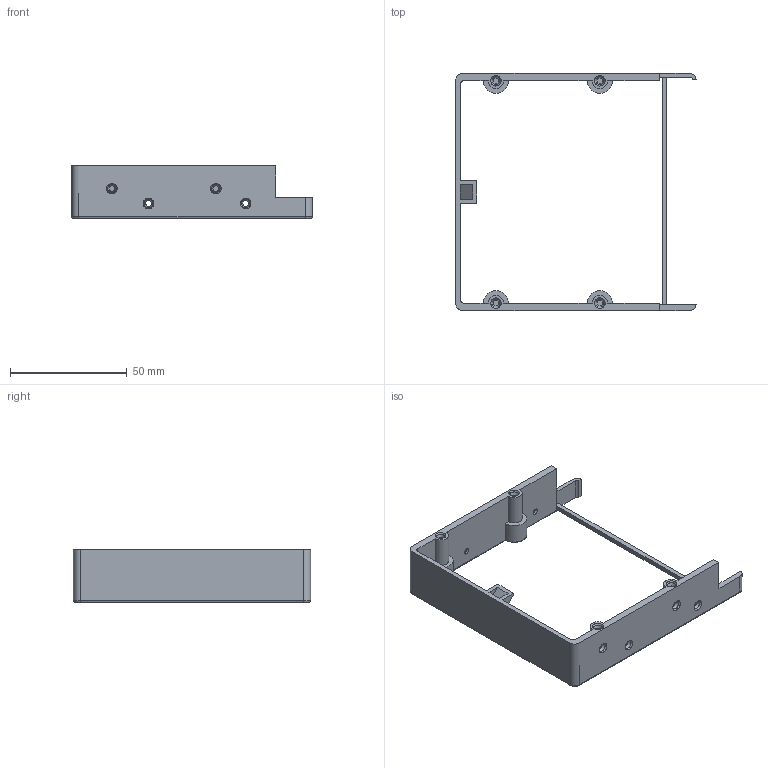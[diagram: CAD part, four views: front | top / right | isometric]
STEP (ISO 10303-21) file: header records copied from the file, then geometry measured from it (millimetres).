
FILE_DESCRIPTION(/* description */ (''),/* implementation_level */ '2;1');
FILE_NAME(/* name */ 'E:/OneDrive/projects/3.5 Hard Drive 50-pin SCSI PCB/123d design/New folder/3.5 Hard Drive Case 50-pin SCSI TH 100 bottom cover.stp',/* time_stamp */ '2022-01-04T23:48:06-05:00',/* author */ (''),/* organization */ (''),/* preprocessor_version */ 'ST-DEVELOPER v15.2',/* originating_system */ 'Autodesk Translator Framework v2.0.0.5431',/* authorisation */ '');
FILE_SCHEMA (('AUTOMOTIVE_DESIGN { 1 0 10303 214 3 1 1 }'));
Length unit declared in the file: centimetre
Products named in the file (1): 3.5 Hard Drive Case 50-pin SCSI TH 100 bottom cover
Bounding box: 103 x 101.6 x 22.5 mm (x, y, z)
Volume: 19806 mm3; surface area: 16668 mm2
Topology: 1 solids, 1 shells, 129 faces, 311 edges, 196 vertices
Faces by surface type: plane 46, cylinder 41, cone 32, torus 10
Full cylindrical faces by diameter (mm): 2.5 x4, 2.54 x12
Entity records: 3542 total; most frequent: CARTESIAN_POINT 687, DIRECTION 617, ORIENTED_EDGE 502, EDGE_CURVE 251, AXIS2_PLACEMENT_3D 246, EDGE_LOOP 199, VERTEX_POINT 184, ADVANCED_FACE 129
